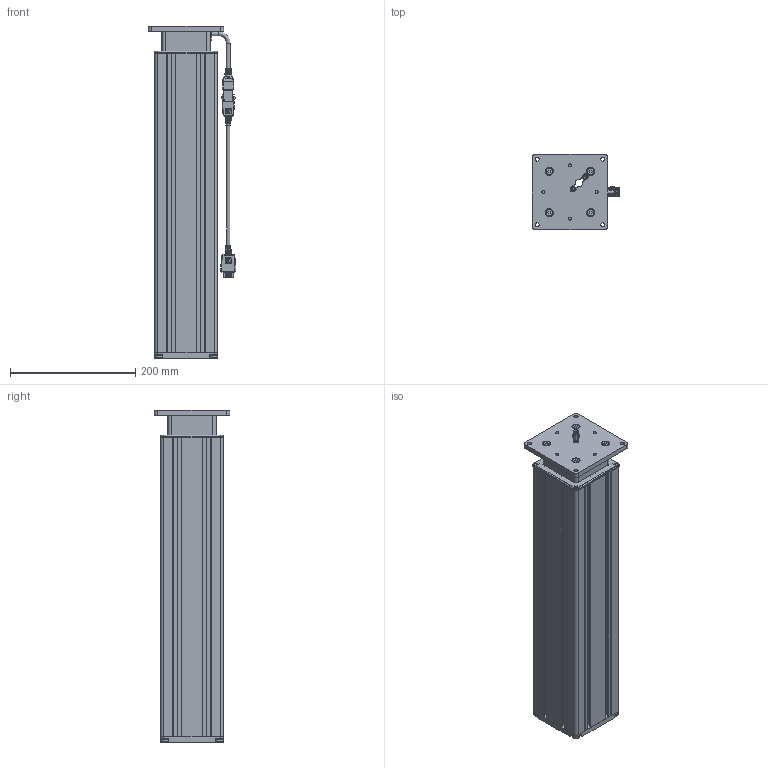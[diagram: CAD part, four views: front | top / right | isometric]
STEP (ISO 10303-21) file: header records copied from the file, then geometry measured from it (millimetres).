
FILE_DESCRIPTION(/* description */ ('Unknown'),/* implementation_level */ '2;1');
FILE_NAME(/* name */ '912.00003_01_eingefahren',/* time_stamp */ '2024-04-08T10:49:07+02:00',/* author */ ('Unknown'),/* organization */ ('Unknown'),/* preprocessor_version */ 'ST-DEVELOPER v18.104',/* originating_system */ 'Solid Edge',/* authorisation */ 'Unknown');
FILE_SCHEMA (('AUTOMOTIVE_DESIGN {1 0 10303 214 3 1 1}'));
Length unit declared in the file: millimetre
Products named in the file (15): 912.00003; 126.00196; 119.00584; 128.00077; 119.00583; 126.00197; 110.00104_oa_0; 115.00200_oa_1; 124.00201_oa_2; 124.00151; 142.00303; 142.00241; 142.00154; 142.00039; Kabel Motor Sx
Assembly tree (25 placements, depth 2):
  912.00003
    126.00196
    119.00584  x4
    128.00077
    119.00583
    126.00197
    110.00104_oa_0
    115.00200_oa_1
    124.00201_oa_2
    124.00151
    142.00303  x4
    142.00241  x2
    142.00154  x4
    142.00039  x2
    Kabel Motor Sx
Bounding box: 139.17 x 120 x 530 mm (x, y, z)
Volume: 1823233.2 mm3; surface area: 1147160.5 mm2
Topology: 22 solids, 22 shells, 1787 faces, 4699 edges, 3081 vertices
Faces by surface type: plane 1094, cylinder 479, torus 109, bspline 72, cone 27, sphere 6
Full cylindrical faces by diameter (mm): 1.5 x6, 1.82 x6, 2 x4, 2.7 x6, 4 x2, 4.917 x4, 5 x3, 5.2 x8, 5.5 x2, 6 x11, 6.2 x4, 6.5 x4, 6.6 x4, 6.647 x4, 7 x2, 8.376 x1, 10 x2, 12 x4, 21 x1
Entity records: 56575 total; most frequent: CARTESIAN_POINT 11417, ORIENTED_EDGE 7522, DIRECTION 7481, EDGE_CURVE 3761, AXIS2_PLACEMENT_3D 2546, VERTEX_POINT 2522, LINE 2389, VECTOR 2389
